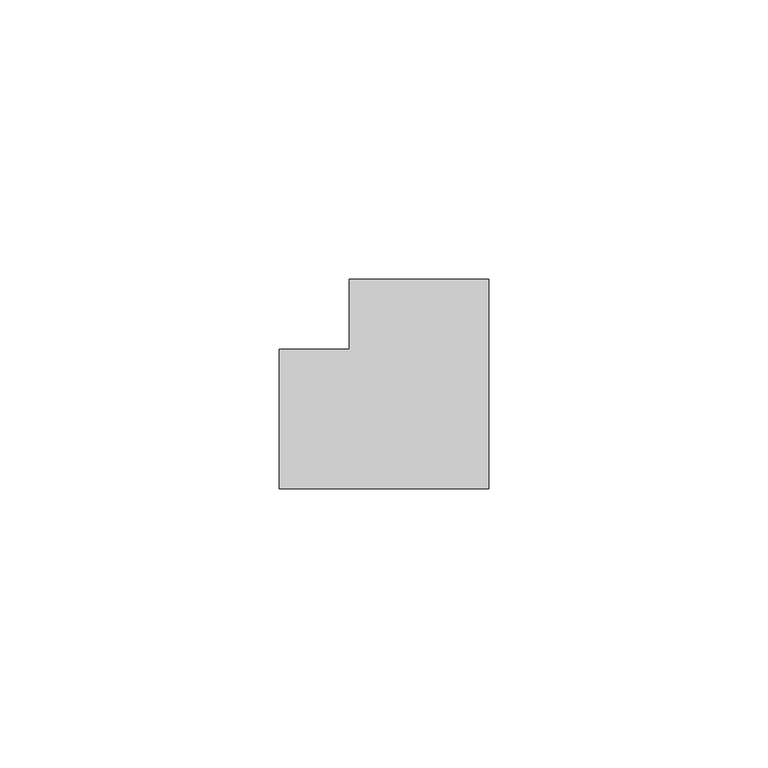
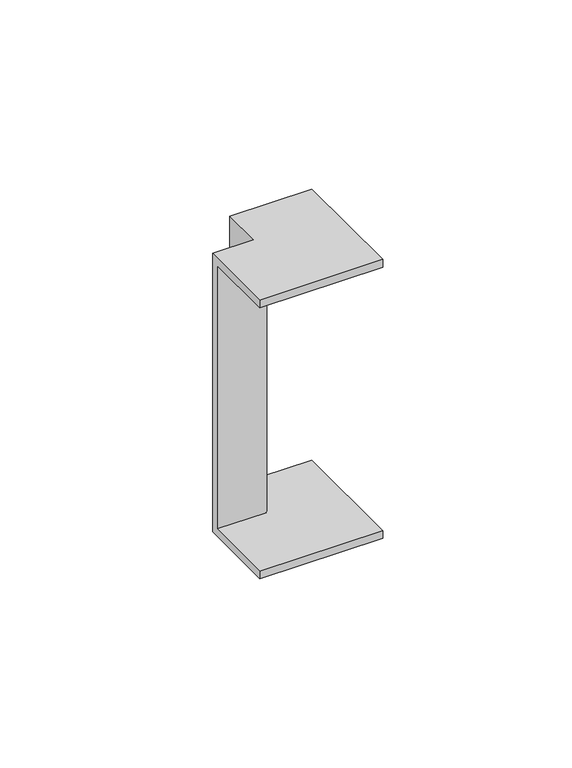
"""IFC4 building model written with IfcOpenShell, lengths in millimetres: cable carrier fitting geometry, КНС_УголВнешний_ILF_DKC : Белый."""

from ifc_helpers import new_model, si_unit, origin, place, context, project, spatial, faceted_brep, source, transform, mapped, element, save


def cable_carrier_fitting_db63f999(model_context):
    return source(origin(), model_context, "Body", "Brep", [
        faceted_brep([(-25.0, 12.5, 45.0), (-25.0, 12.5, -45.0), (-25.0, -12.5, -45.0), (-25.0, -12.5, -42.5), (-25.0, 10.0, -42.5), (-25.0, 10.0, 42.5), (-25.0, -12.5, 42.5), (-25.0, -12.5, 45.0), (-12.5, 25.0, 45.0), (12.5, 25.0, 45.0), (12.5, 25.0, 42.5), (-10.0, 25.0, 42.5), (-10.0, 25.0, -42.5), (12.5, 25.0, -42.5), (12.5, 25.0, -45.0), (-12.5, 25.0, -45.0), (-12.5, 12.5, 45.0), (-12.5, 12.5, -45.0), (12.5, -12.5, -45.0), (12.5, -12.5, -42.5), (-10.0, 10.0, -42.5), (-10.0, 10.0, 42.5), (12.5, -12.5, 42.5), (12.5, -12.5, 45.0)], [[[0, 1, 2, 3, 4, 5, 6, 7]], [[8, 9, 10, 11, 12, 13, 14, 15]], [[1, 0, 16, 17]], [[2, 1, 17, 15, 14, 18]], [[3, 2, 18, 19]], [[4, 3, 19, 13, 12, 20]], [[5, 4, 20, 21]], [[6, 5, 21, 11, 10, 22]], [[7, 6, 22, 23]], [[0, 7, 23, 9, 8, 16]], [[17, 16, 8, 15]], [[19, 18, 14, 13]], [[21, 20, 12, 11]], [[23, 22, 10, 9]]]),
    ])


if __name__ == "__main__":
    model = new_model("IFC4")
    model_context = context("Model", 3, world=origin())
    ifc_project = project(units=[si_unit("LENGTHUNIT", "METRE", prefix="MILLI")], contexts=[model_context])
    site = spatial("IfcSite", under=ifc_project)
    building = spatial("IfcBuilding", under=site)
    placement = place(None, origin())
    cable_carrier_fitting_shape = cable_carrier_fitting_db63f999(model_context)
    element("IfcCableCarrierFitting", 1, ObjectType="КНС_УголВнешний_ILF_DKC : Белый", at=placement, inside=building, context=model_context, shape_type="MappedRepresentation", body=[
        mapped(cable_carrier_fitting_shape, transform((0.0, 0.0, 0.0), x_axis=(1.0, 0.0, 0.0), y_axis=(0.0, 1.0, 0.0), z_axis=(0.0, 0.0, 1.0))),
    ])
    save(model, "model.ifc")
